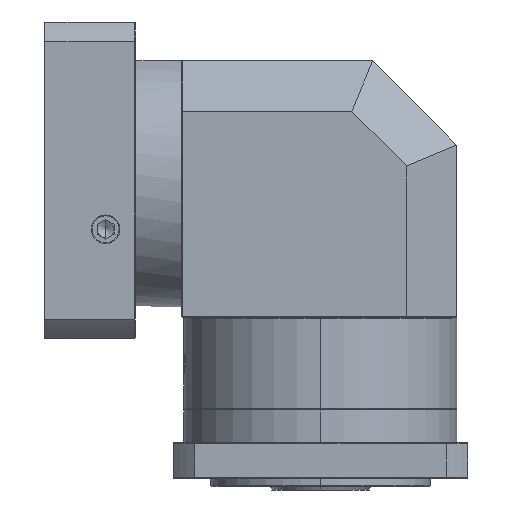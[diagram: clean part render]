
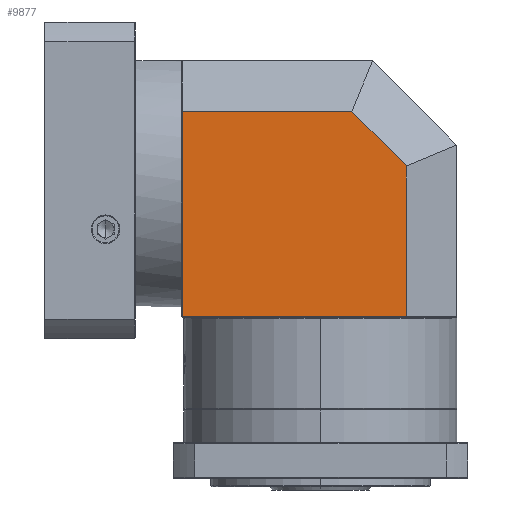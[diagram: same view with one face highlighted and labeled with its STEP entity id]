
A CAD part, left-side view. The second image highlights one B-rep face of the part: STEP entity #9877.
In plain terms, the highlighted planar face has unit normal (-1, 0, 0).
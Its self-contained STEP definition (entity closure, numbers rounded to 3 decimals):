
#240 = ORIENTED_EDGE ( 'NONE', *, *, #59717, .T. ) ;
#853 = VECTOR ( 'NONE', #125094, 1000. ) ;
#4866 = VECTOR ( 'NONE', #98682, 1000. ) ;
#5446 = CARTESIAN_POINT ( 'NONE',  ( -171.956, 80.866, 19.361 ) ) ;
#5510 = CARTESIAN_POINT ( 'NONE',  ( -171.956, 162.116, -56.239 ) ) ;
#9877 = ADVANCED_FACE ( 'NONE', ( #32262 ), #63384, .T. ) ;
#11410 = CARTESIAN_POINT ( 'NONE',  ( -171.956, 80.866, -56.239 ) ) ;
#12416 = CARTESIAN_POINT ( 'NONE',  ( -171.956, 162.116, 65.461 ) ) ;
#16170 = VERTEX_POINT ( 'NONE', #33460 ) ;
#16686 = ORIENTED_EDGE ( 'NONE', *, *, #46146, .T. ) ;
#17711 = LINE ( 'NONE', #85103, #853 ) ;
#28612 = EDGE_CURVE ( 'NONE', #52350, #52386, #110765, .T. ) ;
#29143 = VERTEX_POINT ( 'NONE', #66309 ) ;
#32127 = EDGE_LOOP ( 'NONE', ( #100352, #125118, #240, #16686, #84760 ) ) ;
#32262 = FACE_OUTER_BOUND ( 'NONE', #32127, .T. ) ;
#33460 = CARTESIAN_POINT ( 'NONE',  ( -171.956, 29.116, 33.035 ) ) ;
#38258 = AXIS2_PLACEMENT_3D ( 'NONE', #5446, #92134, #102435 ) ;
#39138 = CARTESIAN_POINT ( 'NONE',  ( -171.956, 162.116, 19.361 ) ) ;
#41008 = VECTOR ( 'NONE', #100084, 1000. ) ;
#41956 = DIRECTION ( 'NONE',  ( 0., -1., 0. ) ) ;
#46146 = EDGE_CURVE ( 'NONE', #16170, #29143, #67064, .T. ) ;
#50751 = VERTEX_POINT ( 'NONE', #126887 ) ;
#52350 = VERTEX_POINT ( 'NONE', #5510 ) ;
#52386 = VERTEX_POINT ( 'NONE', #12416 ) ;
#59717 = EDGE_CURVE ( 'NONE', #50751, #16170, #117553, .T. ) ;
#63111 = LINE ( 'NONE', #11410, #73918 ) ;
#63384 = PLANE ( 'NONE',  #38258 ) ;
#66309 = CARTESIAN_POINT ( 'NONE',  ( -171.956, 61.542, 65.461 ) ) ;
#67064 = LINE ( 'NONE', #90216, #41008 ) ;
#67576 = EDGE_CURVE ( 'NONE', #29143, #52386, #17711, .T. ) ;
#73918 = VECTOR ( 'NONE', #41956, 1000. ) ;
#79909 = DIRECTION ( 'NONE',  ( 0., 0., 1. ) ) ;
#84760 = ORIENTED_EDGE ( 'NONE', *, *, #67576, .T. ) ;
#85103 = CARTESIAN_POINT ( 'NONE',  ( -171.956, 80.866, 65.461 ) ) ;
#90216 = CARTESIAN_POINT ( 'NONE',  ( -171.956, 29.116, 33.035 ) ) ;
#91437 = VECTOR ( 'NONE', #79909, 1000. ) ;
#92134 = DIRECTION ( 'NONE',  ( -1., 0., 0. ) ) ;
#98682 = DIRECTION ( 'NONE',  ( 0., 0., 1. ) ) ;
#100046 = CARTESIAN_POINT ( 'NONE',  ( -171.956, 29.116, 19.361 ) ) ;
#100084 = DIRECTION ( 'NONE',  ( 0., 0.707, 0.707 ) ) ;
#100352 = ORIENTED_EDGE ( 'NONE', *, *, #28612, .F. ) ;
#102435 = DIRECTION ( 'NONE',  ( 0., 0., -1. ) ) ;
#110150 = EDGE_CURVE ( 'NONE', #52350, #50751, #63111, .T. ) ;
#110765 = LINE ( 'NONE', #39138, #4866 ) ;
#117553 = LINE ( 'NONE', #100046, #91437 ) ;
#125094 = DIRECTION ( 'NONE',  ( 0., 1., 0. ) ) ;
#125118 = ORIENTED_EDGE ( 'NONE', *, *, #110150, .T. ) ;
#126887 = CARTESIAN_POINT ( 'NONE',  ( -171.956, 29.116, -56.239 ) ) ;
